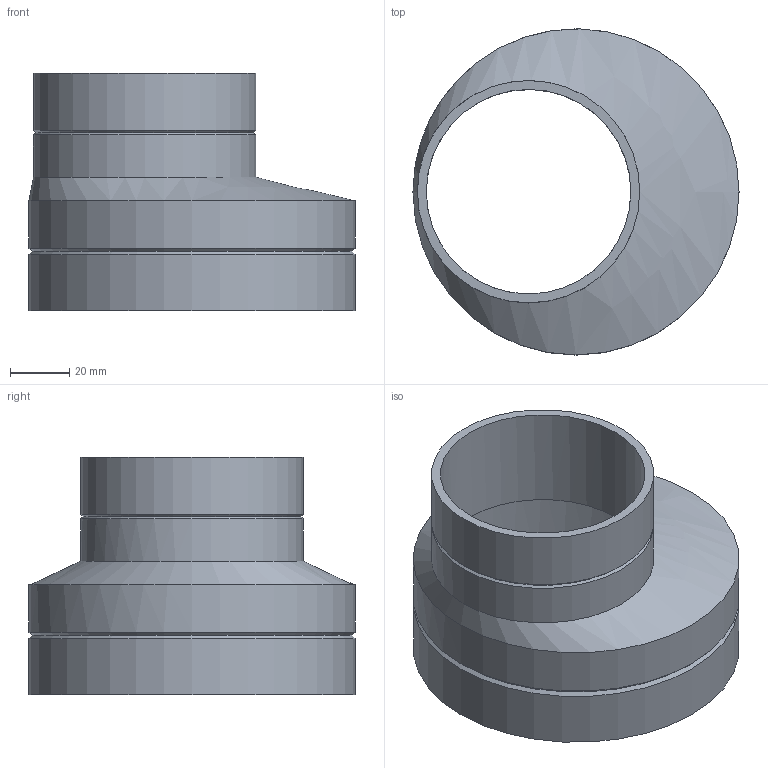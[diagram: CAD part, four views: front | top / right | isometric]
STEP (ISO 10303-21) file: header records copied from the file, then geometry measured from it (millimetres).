
FILE_DESCRIPTION(/* description */ (''),/* implementation_level */ '2;1');
FILE_NAME(/* name */ 'Z:\Geberit\Export\NewStep\367576.stp',/* time_stamp */ '2014-04-02T07:57:50+02:00',/* author */ ('nelson'),/* organization */ (''),/* preprocessor_version */ 'ST-DEVELOPER v15.2',/* originating_system */ 'Autodesk Inventor 2014',/* authorisation */ '');
FILE_SCHEMA (('AUTOMOTIVE_DESIGN { 1 0 10303 214 3 1 1 }'));
Length unit declared in the file: millimetre
Products named in the file (1): 367576
Bounding box: 110 x 110 x 80 mm (x, y, z)
Volume: 84271.3 mm3; surface area: 53945.3 mm2
Topology: 1 solids, 1 shells, 14 faces, 34 edges, 22 vertices
Faces by surface type: cylinder 6, cone 4, bspline 2, plane 2
Full cylindrical faces by diameter (mm): 69 x1, 75 x2, 101.4 x1, 110 x2
Entity records: 397 total; most frequent: CARTESIAN_POINT 89, DIRECTION 62, ORIENTED_EDGE 40, AXIS2_PLACEMENT_3D 31, EDGE_LOOP 26, EDGE_CURVE 20, CIRCLE 18, VERTEX_POINT 18
